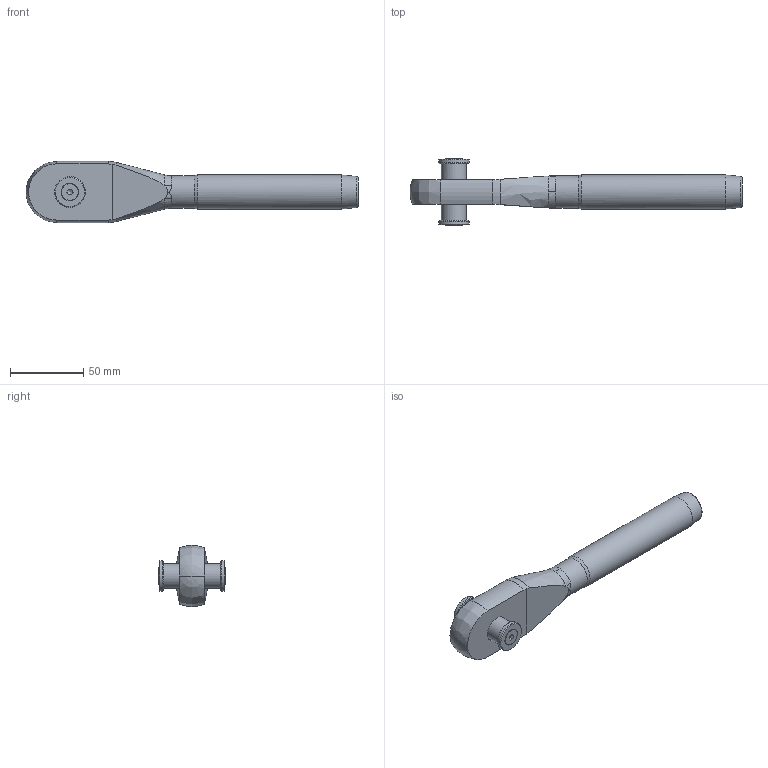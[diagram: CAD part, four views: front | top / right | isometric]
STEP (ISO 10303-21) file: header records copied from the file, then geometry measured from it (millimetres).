
FILE_DESCRIPTION(/* description */ (''),/* implementation_level */ '2;1');
FILE_NAME(/* name */ 'MCC 12_42CrMo4',/* time_stamp */ '2023-05-23T15:40:58+02:00',/* author */ (''),/* organization */ (''),/* preprocessor_version */ 'ST-DEVELOPER v16.5',/* originating_system */ 'Rhino 7.22',/* authorisation */ '');
FILE_SCHEMA (('CONFIG_CONTROL_DESIGN'));
Length unit declared in the file: millimetre
Products named in the file (1): Document
Bounding box: 227 x 45.45 x 42 mm (x, y, z)
Volume: 119999.3 mm3; surface area: 25607.2 mm2
Topology: 6 solids, 6 shells, 74 faces, 203 edges, 135 vertices
Faces by surface type: bspline 31, plane 27, cylinder 16
Full cylindrical faces by diameter (mm): 4.917 x2, 6 x2, 6.5 x2, 11.34 x2, 17 x1, 18 x1, 21 x2, 22.2 x1, 23.3 x1
Entity records: 3230 total; most frequent: CARTESIAN_POINT 1975, ORIENTED_EDGE 386, EDGE_CURVE 193, VERTEX_POINT 135, EDGE_LOOP 84, ADVANCED_FACE 74, FACE_OUTER_BOUND 74, B_SPLINE_CURVE_WITH_KNOTS 64
